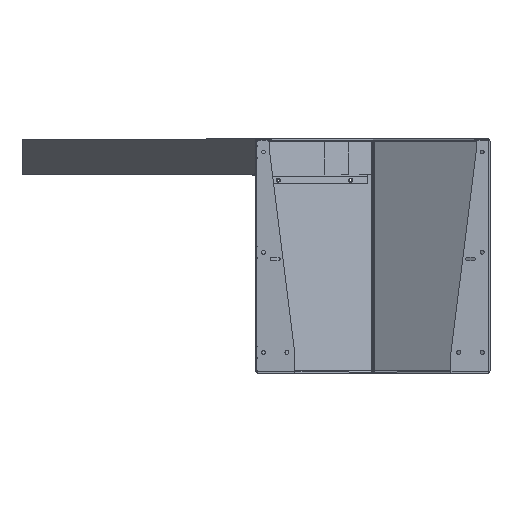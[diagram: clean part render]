
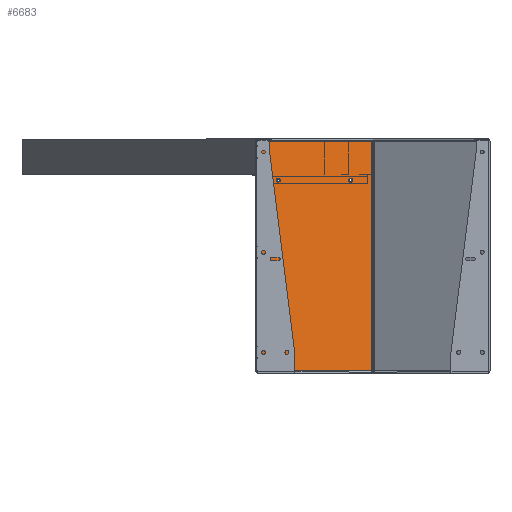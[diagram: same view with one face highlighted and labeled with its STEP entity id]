
A CAD part, top view. The second image highlights one B-rep face of the part: STEP entity #6683.
In plain terms, the highlighted planar face has unit normal (0.5, 0, 0.866).
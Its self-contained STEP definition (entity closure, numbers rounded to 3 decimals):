
#55 = AXIS2_PLACEMENT_3D ( 'NONE', #5015, #4875, #4122 ) ;
#121 = DIRECTION ( 'NONE',  ( 0., -1., 0. ) ) ;
#336 = PLANE ( 'NONE',  #6686 ) ;
#443 = VECTOR ( 'NONE', #563, 1000. ) ;
#484 = EDGE_CURVE ( 'NONE', #2728, #1281, #8998, .T. ) ;
#563 = DIRECTION ( 'NONE',  ( -0.866, 0., 0.5 ) ) ;
#792 = VECTOR ( 'NONE', #121, 1000. ) ;
#857 = EDGE_CURVE ( 'NONE', #8206, #3638, #3937, .T. ) ;
#1051 = ORIENTED_EDGE ( 'NONE', *, *, #6831, .T. ) ;
#1091 = CARTESIAN_POINT ( 'NONE',  ( 1.5, 1292.334, -170.607 ) ) ;
#1281 = VERTEX_POINT ( 'NONE', #4436 ) ;
#1442 = AXIS2_PLACEMENT_3D ( 'NONE', #7364, #8075, #7943 ) ;
#1583 = CARTESIAN_POINT ( 'NONE',  ( 298.35, 1292.334, -341.993 ) ) ;
#1953 = CARTESIAN_POINT ( 'NONE',  ( 298.35, 593.7, -341.993 ) ) ;
#2054 = CARTESIAN_POINT ( 'NONE',  ( 4.65, 1292.334, -172.426 ) ) ;
#2102 = LINE ( 'NONE', #2054, #6382 ) ;
#2472 = AXIS2_PLACEMENT_3D ( 'NONE', #3022, #8689, #5809 ) ;
#2673 = CARTESIAN_POINT ( 'NONE',  ( 63.235, 494.35, -206.25 ) ) ;
#2728 = VERTEX_POINT ( 'NONE', #2673 ) ;
#2811 = CIRCLE ( 'NONE', #1442, 5. ) ;
#3022 = CARTESIAN_POINT ( 'NONE',  ( 58.905, 494.35, -203.75 ) ) ;
#3172 = FACE_OUTER_BOUND ( 'NONE', #6496, .T. ) ;
#3318 = FACE_BOUND ( 'NONE', #5831, .T. ) ;
#3540 = CARTESIAN_POINT ( 'NONE',  ( 58.905, 494.35, -203.75 ) ) ;
#3638 = VERTEX_POINT ( 'NONE', #3662 ) ;
#3662 = CARTESIAN_POINT ( 'NONE',  ( 298.35, 6.3, -341.993 ) ) ;
#3676 = VECTOR ( 'NONE', #3970, 1000. ) ;
#3819 = CIRCLE ( 'NONE', #55, 5. ) ;
#3860 = ORIENTED_EDGE ( 'NONE', *, *, #8036, .F. ) ;
#3937 = LINE ( 'NONE', #1583, #792 ) ;
#3970 = DIRECTION ( 'NONE',  ( 0.866, 0., -0.5 ) ) ;
#4122 = DIRECTION ( 'NONE',  ( 0.866, 0., -0.5 ) ) ;
#4176 = ORIENTED_EDGE ( 'NONE', *, *, #8126, .F. ) ;
#4436 = CARTESIAN_POINT ( 'NONE',  ( 54.575, 494.35, -201.25 ) ) ;
#4647 = FACE_BOUND ( 'NONE', #8826, .T. ) ;
#4875 = DIRECTION ( 'NONE',  ( 0.5, 0., 0.866 ) ) ;
#4882 = DIRECTION ( 'NONE',  ( 0., -1., 0. ) ) ;
#5015 = CARTESIAN_POINT ( 'NONE',  ( 244.018, 494.35, -310.625 ) ) ;
#5194 = CIRCLE ( 'NONE', #2472, 5. ) ;
#5595 = EDGE_CURVE ( 'NONE', #3638, #9107, #7105, .T. ) ;
#5646 = CARTESIAN_POINT ( 'NONE',  ( 4.65, 6.3, -172.426 ) ) ;
#5720 = DIRECTION ( 'NONE',  ( 0.5, 0., 0.866 ) ) ;
#5809 = DIRECTION ( 'NONE',  ( 0.866, 0., -0.5 ) ) ;
#5831 = EDGE_LOOP ( 'NONE', ( #8431, #7292 ) ) ;
#6193 = DIRECTION ( 'NONE',  ( 0.5, 0., 0.866 ) ) ;
#6366 = CARTESIAN_POINT ( 'NONE',  ( 248.348, 494.35, -313.125 ) ) ;
#6382 = VECTOR ( 'NONE', #4882, 1000. ) ;
#6496 = EDGE_LOOP ( 'NONE', ( #8956, #3860, #1051, #9085 ) ) ;
#6658 = ORIENTED_EDGE ( 'NONE', *, *, #8913, .F. ) ;
#6683 = ADVANCED_FACE ( 'NONE', ( #3318, #4647, #3172 ), #336, .T. ) ;
#6686 = AXIS2_PLACEMENT_3D ( 'NONE', #1091, #6193, #9067 ) ;
#6793 = CARTESIAN_POINT ( 'NONE',  ( 4.65, 593.7, -172.426 ) ) ;
#6831 = EDGE_CURVE ( 'NONE', #8392, #9107, #2102, .T. ) ;
#6888 = CARTESIAN_POINT ( 'NONE',  ( 239.687, 494.35, -308.125 ) ) ;
#6953 = VERTEX_POINT ( 'NONE', #6888 ) ;
#7062 = CARTESIAN_POINT ( 'NONE',  ( 298.35, 6.3, -341.993 ) ) ;
#7105 = LINE ( 'NONE', #7062, #443 ) ;
#7292 = ORIENTED_EDGE ( 'NONE', *, *, #484, .F. ) ;
#7364 = CARTESIAN_POINT ( 'NONE',  ( 244.018, 494.35, -310.625 ) ) ;
#7940 = AXIS2_PLACEMENT_3D ( 'NONE', #3540, #5720, #8590 ) ;
#7943 = DIRECTION ( 'NONE',  ( 0.866, 0., -0.5 ) ) ;
#8036 = EDGE_CURVE ( 'NONE', #8392, #8206, #8918, .T. ) ;
#8075 = DIRECTION ( 'NONE',  ( 0.5, 0., 0.866 ) ) ;
#8126 = EDGE_CURVE ( 'NONE', #8558, #6953, #3819, .T. ) ;
#8206 = VERTEX_POINT ( 'NONE', #1953 ) ;
#8290 = CARTESIAN_POINT ( 'NONE',  ( 4.65, 593.7, -172.426 ) ) ;
#8291 = EDGE_CURVE ( 'NONE', #1281, #2728, #5194, .T. ) ;
#8392 = VERTEX_POINT ( 'NONE', #8290 ) ;
#8431 = ORIENTED_EDGE ( 'NONE', *, *, #8291, .F. ) ;
#8558 = VERTEX_POINT ( 'NONE', #6366 ) ;
#8590 = DIRECTION ( 'NONE',  ( 0.866, 0., -0.5 ) ) ;
#8689 = DIRECTION ( 'NONE',  ( 0.5, 0., 0.866 ) ) ;
#8826 = EDGE_LOOP ( 'NONE', ( #6658, #4176 ) ) ;
#8913 = EDGE_CURVE ( 'NONE', #6953, #8558, #2811, .T. ) ;
#8918 = LINE ( 'NONE', #6793, #3676 ) ;
#8956 = ORIENTED_EDGE ( 'NONE', *, *, #857, .F. ) ;
#8998 = CIRCLE ( 'NONE', #7940, 5. ) ;
#9067 = DIRECTION ( 'NONE',  ( 0.866, 0., -0.5 ) ) ;
#9085 = ORIENTED_EDGE ( 'NONE', *, *, #5595, .F. ) ;
#9107 = VERTEX_POINT ( 'NONE', #5646 ) ;
